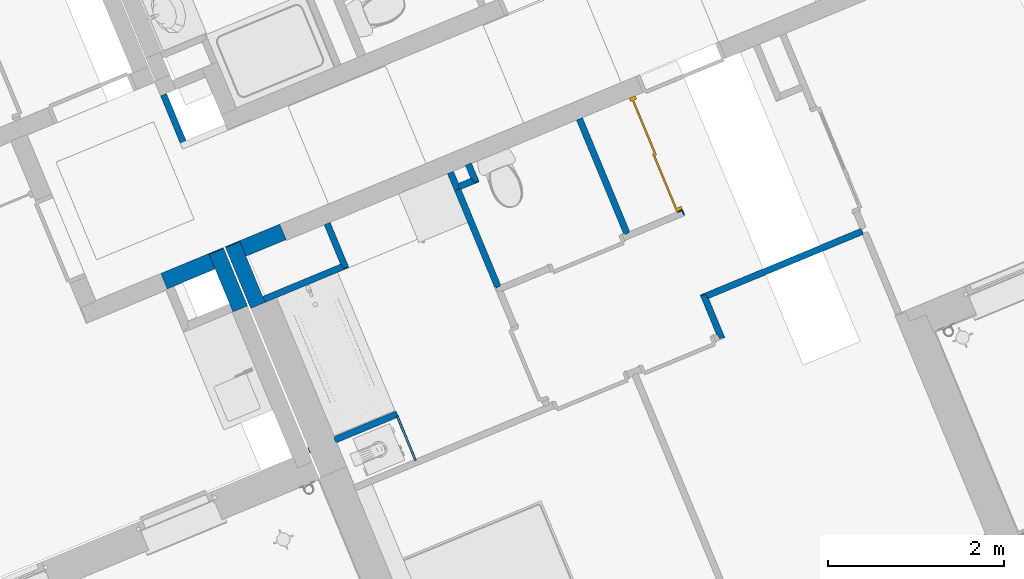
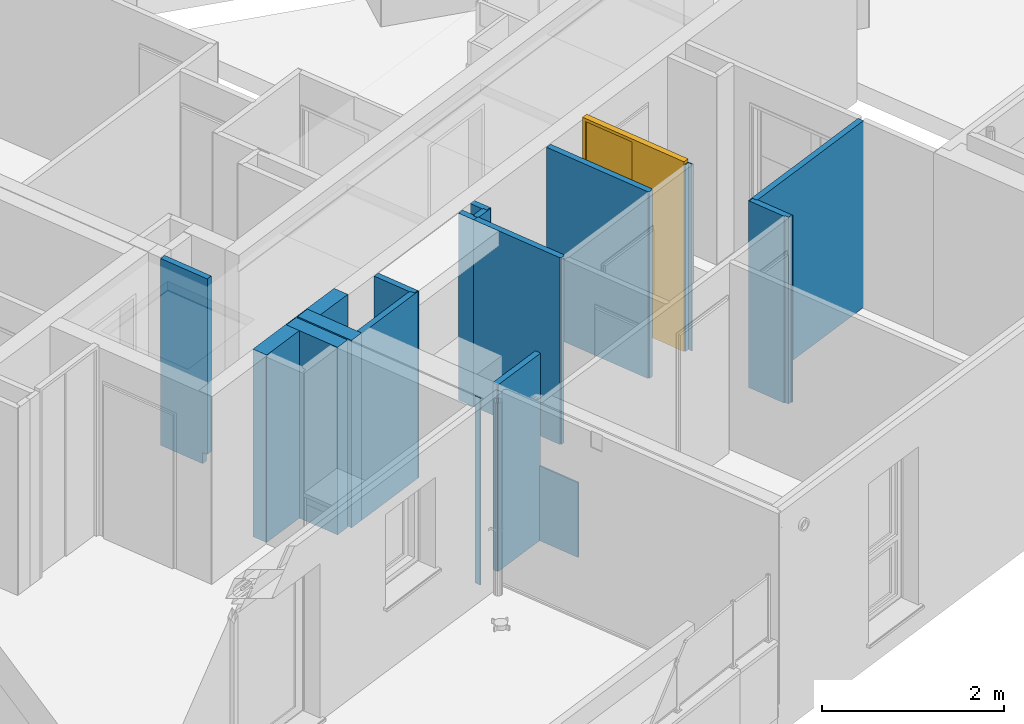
# One storey, part 38 of 119: 17 walls, 1 door, 1 opening.
"""IFC2X3 building model written with IfcOpenShell, lengths in metres."""

import ifcopenshell
import ifcopenshell.guid

model = None  # the IFC model being written
_history = None  # IfcOwnerHistory: only IFC2X3 demands one
_inside = {}  # id of a spatial element -> (the spatial element, [elements in it])
_under = {}  # id of a project, library or spatial element -> (it, [spatial elements below it])
_declared = {}  # id of a project -> (the project, [libraries it declares])
_typed = {}  # id of a type object -> (the type object, [elements of that type])
_made_of = {}  # id of a material, layer set ... -> (it, [elements and type objects made of it])


def new_model(schema):
    """Start an empty IFC model of exactly this schema.

    Asked for "IFC4X3", IfcOpenShell would pick the latest addendum, in which some entities
    have other attributes; the version numbers below select the first issue.
    IFC2X3 requires an IfcOwnerHistory on every rooted entity: one is made here for all.
    """
    global model, _history
    if schema == "IFC4X3":
        model = ifcopenshell.file(schema_version=(4, 3, 0, 0))
    else:
        model = ifcopenshell.file(schema=schema)
    _inside.clear()
    _under.clear()
    _declared.clear()
    _typed.clear()
    _made_of.clear()
    _history = None
    if model.schema == "IFC2X3":
        org = make("IfcOrganization", Name="unknown")
        user = make(
            "IfcPersonAndOrganization",
            ThePerson=make("IfcPerson", FamilyName="unknown"),
            TheOrganization=org,
        )
        app = make(
            "IfcApplication",
            ApplicationDeveloper=org,
            Version="unknown",
            ApplicationFullName="unknown",
            ApplicationIdentifier="unknown",
        )
        _history = make(
            "IfcOwnerHistory",
            OwningUser=user,
            OwningApplication=app,
            ChangeAction="ADDED",
            CreationDate=0,
        )
    return model


def make(cls, **values):
    """One entity of the class cls with the attributes given. An attribute that is None is left unset."""
    return model.create_entity(
        cls, **{name: value for name, value in values.items() if value is not None}
    )


def entity(cls, *values):
    """Any entity or typed value of the class cls, its attributes in the order of the schema. None: left unset."""
    e = model.create_entity(cls)
    for i, value in enumerate(values):
        if value is not None:
            e[i] = value
    return e


def rooted(cls, **values):
    """An entity with a GlobalId (a new one), such as an element, a storey or a relation."""
    return make(cls, GlobalId=ifcopenshell.guid.new(), OwnerHistory=_history, **values)


def si_unit(unit_type, name, prefix=None):
    """IfcSIUnit, for example si_unit("LENGTHUNIT", "METRE", prefix="MILLI")."""
    return make("IfcSIUnit", UnitType=unit_type, Prefix=prefix, Name=name)


def converted_unit(unit_type, name, factor, base, dimensions=None, offset=None):
    """IfcConversionBasedUnit, such as the inch: factor (a typed value) times the base unit."""
    return make(
        "IfcConversionBasedUnit"
        if offset is None
        else "IfcConversionBasedUnitWithOffset",
        ConversionOffset=offset,
        Dimensions=None
        if dimensions is None
        else entity("IfcDimensionalExponents", *dimensions),
        UnitType=unit_type,
        Name=name,
        ConversionFactor=make(
            "IfcMeasureWithUnit", ValueComponent=factor, UnitComponent=base
        ),
    )


def derived_unit(unit_type, elements):
    """IfcDerivedUnit: a product of units, each with its exponent."""
    return make(
        "IfcDerivedUnit",
        Elements=[
            make("IfcDerivedUnitElement", Unit=unit, Exponent=power)
            for unit, power in elements
        ],
        UnitType=unit_type,
    )


def money_unit(currency):
    """IfcMonetaryUnit."""
    return make("IfcMonetaryUnit", Currency=currency)


def assignment(units):
    """IfcUnitAssignment: the units of a project."""
    return None if units is None else make("IfcUnitAssignment", Units=units)


def point(xyz):
    """IfcCartesianPoint."""
    return None if xyz is None else make("IfcCartesianPoint", Coordinates=xyz)


def direction(xyz):
    """IfcDirection."""
    return None if xyz is None else make("IfcDirection", DirectionRatios=xyz)


def frame(location, z_axis=None, x_axis=None):
    """IfcAxis2Placement3D, a coordinate frame: its origin and axes. An axis left out is left unset."""
    return make(
        "IfcAxis2Placement3D",
        Location=point(location),
        Axis=direction(z_axis),
        RefDirection=direction(x_axis),
    )


def origin_with_axes():
    """The frame at (0, 0, 0) with the z axis (0, 0, 1) and the x axis (1, 0, 0) written out."""
    return frame((0.0, 0.0, 0.0), z_axis=(0.0, 0.0, 1.0), x_axis=(1.0, 0.0, 0.0))


def place(relative_to, where):
    """IfcLocalPlacement: puts the frame where relative to a parent placement (None: the world)."""
    return make(
        "IfcLocalPlacement", PlacementRelTo=relative_to, RelativePlacement=where
    )


def context(
    kind, dimensions, precision=None, world=None, true_north=None, identifier=None
):
    """IfcGeometricRepresentationContext, for example the 3D "Model" context."""
    return make(
        "IfcGeometricRepresentationContext",
        ContextIdentifier=identifier,
        ContextType=kind,
        CoordinateSpaceDimension=dimensions,
        Precision=precision,
        WorldCoordinateSystem=world,
        TrueNorth=true_north,
    )


def subcontext(parent, identifier, kind, view, scale=None):
    """IfcGeometricRepresentationSubContext, for example "Body" below "Model"."""
    return make(
        "IfcGeometricRepresentationSubContext",
        ContextIdentifier=identifier,
        ContextType=kind,
        ParentContext=parent,
        TargetScale=scale,
        TargetView=view,
    )


def project(units=None, contexts=None):
    """IfcProject with its units and contexts."""
    return rooted(
        "IfcProject",
        Name="project",
        RepresentationContexts=contexts,
        UnitsInContext=assignment(units),
    )


def spatial(cls, under=None, at=None, **own):
    """A site, building, storey or space (cls), placed at a placement, below another one or the project."""
    s = rooted(cls, ObjectPlacement=at, **own)
    if under is not None:
        _under.setdefault(under.id(), (under, []))[1].append(s)
    return s


def faces_of(points, faces, orient=None, outer=None):
    """IfcFace entities. A face is a list of loops; a loop is a list of indices into points, from 0.

    orient and outer hold one flag for each loop. By default every Orientation is true, the
    first loop of a face is its IfcFaceOuterBound and the others are IfcFaceBound.
    """
    made = []
    for i, loops in enumerate(faces):
        bounds = []
        for j, loop in enumerate(loops):
            is_outer = j == 0 if outer is None else outer[i][j]
            bounds.append(
                make(
                    "IfcFaceOuterBound" if is_outer else "IfcFaceBound",
                    Bound=make("IfcPolyLoop", Polygon=[points[k] for k in loop]),
                    Orientation=True if orient is None else orient[i][j],
                )
            )
        made.append(make("IfcFace", Bounds=bounds))
    return made


def faceted_brep(points, faces, orient=None, outer=None, voids=None):
    """IfcFacetedBrep: a solid bounded by flat faces; with voids (closed shells), ...WithVoids."""
    shared = [point(p) for p in points]
    hull = make("IfcClosedShell", CfsFaces=faces_of(shared, faces, orient, outer))
    if voids is None:
        return make("IfcFacetedBrep", Outer=hull)
    return make(
        "IfcFacetedBrepWithVoids",
        Outer=hull,
        Voids=[
            make(cls, CfsFaces=faces_of(shared, fs, o, b)) for cls, fs, o, b in voids
        ],
    )


def shape(context_of_items, identifier, shape_type, items):
    """IfcShapeRepresentation: the items that make up one representation, for example the "Body"."""
    return make(
        "IfcShapeRepresentation",
        ContextOfItems=context_of_items,
        RepresentationIdentifier=identifier,
        RepresentationType=shape_type,
        Items=items,
    )


def material(Name=None, Category=None):
    """IfcMaterial."""
    return make("IfcMaterial", Name=Name, Category=Category)


def material_list(materials):
    """IfcMaterialList."""
    return make("IfcMaterialList", Materials=materials)


def made_of(thing, what):
    """Note that an element or type object is made of a material, layer set ...; save() writes the relation."""
    if what is not None:
        _made_of.setdefault(what.id(), (what, []))[1].append(thing)
    return thing


def type_object(cls, material=None, **own):
    """A type object (cls), such as IfcWallType, which elements share."""
    return made_of(rooted(cls, **own), material)


def element(
    cls,
    number,
    at=None,
    inside=None,
    cuts=None,
    type_object=None,
    material=None,
    context=None,
    identifier="Body",
    shape_type=None,
    held_by="IfcProductDefinitionShape",
    body=None,
    shapes=None,
    **own,
):
    """One element of the class cls, such as IfcWall. Its Tag is "e" and its number.

    at: its placement. inside: the storey or other place that contains it. cuts: it is an
    opening in that element (IfcRelVoidsElement). A single representation is given by context,
    identifier, shape_type and body (its items); several are given by shapes. held_by: the class
    of the entity that holds the representations. save() writes the other relations.
    """
    e = rooted(cls, Tag="e%d" % number, ObjectPlacement=at, **own)
    if body is not None:
        shapes = [shape(context, identifier, shape_type, body)]
    if shapes is not None:
        e.Representation = make(held_by, Representations=shapes)
    if inside is not None:
        _inside.setdefault(inside.id(), (inside, []))[1].append(e)
    if cuts is not None:
        rooted(
            "IfcRelVoidsElement", RelatingBuildingElement=cuts, RelatedOpeningElement=e
        )
    if type_object is not None:
        _typed.setdefault(type_object.id(), (type_object, []))[1].append(e)
    return made_of(e, material)


def fill(opening, filler):
    """IfcRelFillsElement: the door or window that sits in an opening."""
    return rooted(
        "IfcRelFillsElement",
        RelatingOpeningElement=opening,
        RelatedBuildingElement=filler,
    )


def aggregate(whole, parts):
    """IfcRelAggregates: a whole, such as a stair, and the parts it consists of."""
    return rooted("IfcRelAggregates", RelatingObject=whole, RelatedObjects=parts)


def save(model, path):
    """Write the relations noted so far, then the file.

    IfcRelAggregates (storeys below a building ...), IfcRelContainedInSpatialStructure (elements
    in a storey), IfcRelDefinesByType, IfcRelAssociatesMaterial and IfcRelDeclares: one each for
    every whole, place, type object, material and project.
    """
    for whole, parts in _under.values():
        aggregate(whole, parts)
    for where, things in _inside.values():
        rooted(
            "IfcRelContainedInSpatialStructure",
            RelatedElements=things,
            RelatingStructure=where,
        )
    for kind, things in _typed.values():
        rooted("IfcRelDefinesByType", RelatedObjects=things, RelatingType=kind)
    for what, things in _made_of.values():
        rooted("IfcRelAssociatesMaterial", RelatedObjects=things, RelatingMaterial=what)
    for by, libraries in _declared.values():
        rooted("IfcRelDeclares", RelatingContext=by, RelatedDefinitions=libraries)
    model.write(path)


model = new_model("IFC2X3")

# Units and contexts
model_context = context("Model", 3, precision=1e-05, world=origin_with_axes(), true_north=direction((0.0, 1.0)))
body_context = subcontext(model_context, "Body", "Model", "MODEL_VIEW")
ifc_project = project(units=[si_unit("LENGTHUNIT", "METRE"), si_unit("AREAUNIT", "SQUARE_METRE"), si_unit("VOLUMEUNIT", "CUBIC_METRE"), converted_unit("PLANEANGLEUNIT", "DEGREE", entity("IfcPlaneAngleMeasure", 0.0174532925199), si_unit("PLANEANGLEUNIT", "RADIAN"), dimensions=[0, 0, 0, 0, 0, 0, 0]), si_unit("SOLIDANGLEUNIT", "STERADIAN"), money_unit("EUR"), converted_unit("TIMEUNIT", "Year", entity("IfcTimeMeasure", 31556926.0), si_unit("TIMEUNIT", "SECOND"), dimensions=[0, 0, 1, 0, 0, 0, 0]), si_unit("MASSUNIT", "GRAM", prefix="KILO"), si_unit("THERMODYNAMICTEMPERATUREUNIT", "DEGREE_CELSIUS"), si_unit("LUMINOUSINTENSITYUNIT", "LUMEN"), si_unit("ENERGYUNIT", "JOULE", prefix="MEGA"), derived_unit("THERMALCONDUCTANCEUNIT", [(si_unit("POWERUNIT", "WATT"), 1), (si_unit("LENGTHUNIT", "METRE"), -1), (si_unit("THERMODYNAMICTEMPERATUREUNIT", "KELVIN"), -1)]), derived_unit("SPECIFICHEATCAPACITYUNIT", [(si_unit("ENERGYUNIT", "JOULE"), 1), (si_unit("MASSUNIT", "GRAM", prefix="KILO"), -1), (si_unit("THERMODYNAMICTEMPERATUREUNIT", "KELVIN"), -1)]), derived_unit("MASSDENSITYUNIT", [(si_unit("MASSUNIT", "GRAM", prefix="KILO"), 1), (si_unit("VOLUMEUNIT", "CUBIC_METRE"), -1)])], contexts=[model_context])

# Site, building, storey
site_placement = place(None, origin_with_axes())
site = spatial("IfcSite", under=ifc_project, at=site_placement, Name="Site", CompositionType="ELEMENT")
building_placement = place(site_placement, origin_with_axes())
building = spatial("IfcBuilding", under=site, at=building_placement, Name="Bâtiment", CompositionType="ELEMENT")
storey_placement = place(building_placement, origin_with_axes())
storey = spatial("IfcBuildingStorey", under=building, at=storey_placement, Name="Rez-de-chaussée", CompositionType="ELEMENT", Elevation=0.0)

# Walls
ifc_material_1 = material(Name="Cloison - Carreaux de plâtre")
wall_type_1 = type_object("IfcWallType", Name="Cloison - Carreaux de plâtre 74", PredefinedType="USERDEFINED")
wall_1_placement = place(storey_placement, frame((-23.1735961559, -20.9432584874, 0.0), z_axis=(0.0, 0.0, 1.0), x_axis=(-0.383112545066, 0.923701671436, 0.0)))
element("IfcWall", 1, at=wall_1_placement, inside=storey, type_object=wall_type_1, material=ifc_material_1, Name="Carreaux de plâtre 8cm", ObjectType="PARTITIONING", context=body_context, shape_type="Brep", body=[
    faceted_brep([(0.0, -0.074, 2.5), (0.0, 0.0, 2.5), (0.0, 0.0, 0.15), (0.0, -0.074, 0.15), (0.644635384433, -0.074, 2.5), (0.644635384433, 0.0, 2.5), (0.644635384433, 0.0, 0.0), (0.064, 0.0, 0.0), (0.064, 0.0, 0.15), (0.064, -0.074, 0.15), (0.064, -0.074, 0.0), (0.644635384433, -0.074, 0.0)], [[[0, 1, 2, 3]], [[0, 4, 5, 1]], [[6, 7, 8, 2, 1, 5]], [[2, 8, 9, 3]], [[0, 3, 9, 10, 11, 4]], [[4, 11, 6, 5]], [[6, 11, 10, 7]], [[8, 7, 10, 9]]]),
])
ifc_material_2 = material(Name="Finition int - Plaque de plâtre")
ifc_material_3 = material(Name="Isolation - Laine de roche")
ifc_material_list_1 = material_list([ifc_material_2, ifc_material_3, ifc_material_2])
wall_type_2 = type_object("IfcWallType", Name="3 - Cloison 72mm Placostil 74", PredefinedType="USERDEFINED")
wall_2_placement = place(storey_placement, frame((-20.0113311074, -21.3974057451, 0.0), z_axis=(0.0, 0.0, 1.0), x_axis=(0.383112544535, -0.923701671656, 0.0)))
element("IfcWall", 2, at=wall_2_placement, inside=storey, type_object=wall_type_2, material=ifc_material_list_1, Name="Cloison Placostil 72/48", ObjectType="PARTITIONING", context=body_context, shape_type="Brep", body=[
    faceted_brep([(0.0, -0.013, 2.5), (1.18900000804, -0.013, 2.5), (1.18900000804, 0.0, 2.5), (0.0, 0.0, 2.5), (0.0, -0.013, 0.0), (1.18900000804, -0.013, 0.0), (1.18900000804, 0.0, 0.0), (0.0, 0.0, 0.0)], [[[0, 1, 2, 3]], [[4, 5, 1, 0]], [[5, 6, 2, 1]], [[3, 2, 6, 7]], [[4, 0, 3, 7]], [[7, 6, 5, 4]]]),
    faceted_brep([(0.0, -0.061, 2.5), (1.20200000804, -0.060999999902, 2.5), (1.20200000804, -0.013, 2.5), (0.0, -0.013, 2.5), (0.0, -0.061, 0.0), (1.20200000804, -0.060999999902, 0.0), (1.20200000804, -0.013, 0.0), (0.0, -0.013, 0.0)], [[[0, 1, 2, 3]], [[4, 5, 1, 0]], [[5, 6, 2, 1]], [[3, 2, 6, 7]], [[3, 7, 4, 0]], [[7, 6, 5, 4]]]),
    faceted_brep([(0.0, -0.074, 2.5), (1.18900000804, -0.0739999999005, 2.5), (1.18900000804, -0.061, 2.5), (0.0, -0.061, 2.5), (0.0, -0.074, 0.0), (1.18900000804, -0.0739999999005, 0.0), (1.18900000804, -0.061, 0.0), (0.0, -0.061, 0.0)], [[[0, 1, 2, 3]], [[4, 5, 1, 0]], [[5, 6, 2, 1]], [[3, 2, 6, 7]], [[3, 7, 4, 0]], [[7, 6, 5, 4]]]),
])
wall_3_placement = place(storey_placement, frame((-17.0353278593, -23.0286213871, 0.0), z_axis=(0.0, 0.0, 1.0), x_axis=(-0.383112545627, 0.923701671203, 0.0)))
element("IfcWall", 3, at=wall_3_placement, inside=storey, type_object=wall_type_2, material=ifc_material_list_1, Name="Cloison Placostil 72/48", ObjectType="PARTITIONING", context=body_context, shape_type="Brep", body=[
    faceted_brep([(0.483900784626, 0.074, 0.0), (0.483900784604, 0.061, 0.0), (-0.0129999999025, 0.061, 0.0), (-0.0129999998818, 0.074, 0.0), (0.483900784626, 0.074, 2.5), (0.483900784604, 0.061, 2.5), (-0.0129999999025, 0.061, 2.5), (-0.0129999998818, 0.074, 2.5)], [[[0, 1, 2, 3]], [[1, 0, 4, 5]], [[1, 5, 6, 2]], [[7, 3, 2, 6]], [[4, 0, 3, 7]], [[5, 4, 7, 6]]]),
    faceted_brep([(0.470900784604, 0.061, 0.0), (0.470900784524, 0.013, 0.0), (-0.0609999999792, 0.013, 0.0), (-0.0609999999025, 0.061, 0.0), (0.470900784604, 0.061, 2.5), (0.470900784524, 0.013, 2.5), (-0.0609999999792, 0.013, 2.5), (-0.0609999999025, 0.061, 2.5)], [[[0, 1, 2, 3]], [[1, 0, 4, 5]], [[1, 5, 6, 2]], [[7, 3, 2, 6]], [[4, 0, 3, 7]], [[5, 4, 7, 6]]]),
    faceted_brep([(0.422900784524, 0.013, 0.0), (0.422900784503, 0.0, 0.0), (-0.074, 0.0, 0.0), (-0.0739999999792, 0.013, 0.0), (0.422900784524, 0.013, 2.5), (0.422900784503, 0.0, 2.5), (-0.074, 0.0, 2.5), (-0.0739999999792, 0.013, 2.5)], [[[0, 1, 2, 3]], [[1, 0, 4, 5]], [[1, 5, 6, 2]], [[7, 3, 2, 6]], [[4, 0, 3, 7]], [[5, 4, 7, 6]]]),
])
wall_4_placement = place(storey_placement, frame((-17.2207163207, -22.5816414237, 0.0), z_axis=(0.0, 0.0, 1.0), x_axis=(0.923701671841, 0.383112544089, 0.0)))
element("IfcWall", 4, at=wall_4_placement, inside=storey, type_object=wall_type_2, material=ifc_material_list_1, Name="Cloison Placostil 72/48", ObjectType="PARTITIONING", context=body_context, shape_type="Brep", body=[
    faceted_brep([(1.90419488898, -0.013, 2.5), (1.90419488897, 0.0, 2.5), (-0.061, 0.0, 2.5), (-0.0609999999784, -0.013, 2.5), (1.90419488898, -0.013, 0.0), (1.90419488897, 0.0, 0.0), (-0.061, 0.0, 0.0), (-0.0609999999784, -0.013, 0.0)], [[[0, 1, 2, 3]], [[1, 0, 4, 5]], [[1, 5, 6, 2]], [[7, 3, 2, 6]], [[4, 0, 3, 7]], [[5, 4, 7, 6]]]),
    faceted_brep([(-0.0129999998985, -0.061, 2.5), (1.90619488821, -0.061, 2.5), (1.90619488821, -0.013, 2.5), (-0.0129999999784, -0.013, 2.5), (-0.0129999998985, -0.061, 0.0), (1.90619488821, -0.061, 0.0), (1.90619488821, -0.013, 0.0), (-0.0129999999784, -0.013, 0.0)], [[[0, 1, 2, 3]], [[4, 5, 1, 0]], [[2, 1, 5, 6]], [[3, 2, 6, 7]], [[4, 0, 3, 7]], [[7, 6, 5, 4]]]),
    faceted_brep([(1.90419488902, -0.074, 2.5), (1.90419488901, -0.061, 2.5), (1.01508135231e-10, -0.061, 2.5), (1.23137056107e-10, -0.074, 2.5), (1.90419488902, -0.074, 0.0), (1.90419488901, -0.061, 0.0), (1.01508135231e-10, -0.061, 0.0), (1.23137056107e-10, -0.074, 0.0)], [[[0, 1, 2, 3]], [[1, 0, 4, 5]], [[1, 5, 6, 2]], [[7, 3, 2, 6]], [[4, 0, 3, 7]], [[5, 4, 7, 6]]]),
])
wall_5_placement = place(storey_placement, frame((-21.751478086, -24.3459474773, 0.0), z_axis=(0.0, 0.0, 1.0), x_axis=(0.923701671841, 0.383112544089, 0.0)))
element("IfcWall", 5, at=wall_5_placement, inside=storey, type_object=wall_type_2, material=ifc_material_list_1, Name="Cloison Placostil 72/48", ObjectType="PARTITIONING", context=body_context, shape_type="Brep", body=[
    faceted_brep([(1.08999999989, -0.013, 0.0), (1.08999999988, -0.0130000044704, 2.5), (0.329999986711, -0.0130000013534, 2.5), (0.329999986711, -0.013, 0.0), (1.08999999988, 0.0, 0.0), (1.08999999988, 4.47035120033e-09, 1.0), (1.08999999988, 4.47035120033e-09, 2.5), (0.329999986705, 1.3534080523e-09, 2.5), (0.329999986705, 0.0, 0.0)], [[[0, 1, 2, 3]], [[4, 5, 6, 1, 0]], [[2, 1, 6, 7]], [[8, 3, 2, 7]], [[8, 4, 0, 3]], [[7, 6, 5, 4, 8]]]),
    faceted_brep([(0.0099999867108, -0.013, 0.0), (0.00999998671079, -0.013000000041, 2.5), (0.0, -0.013, 2.5), (0.0, -0.013, 0.0), (0.00999998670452, 0.0, 0.0), (0.00999998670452, 0.0, 2.5), (0.0, 0.0, 2.5), (0.0, 0.0, 0.0)], [[[0, 1, 2, 3]], [[1, 0, 4, 5]], [[1, 5, 6, 2]], [[7, 3, 2, 6]], [[4, 0, 3, 7]], [[5, 4, 7, 6]]]),
    faceted_brep([(1.08999999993, -0.061, 0.0), (1.08999999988, -0.0609999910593, 2.5), (0.319999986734, -0.0609999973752, 2.5), (0.319999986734, -0.061, 0.0), (1.08999999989, -0.013, 0.0), (1.08999999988, -0.0130000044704, 2.5), (0.319999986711, -0.0130000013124, 2.5), (0.319999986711, -0.013, 0.0)], [[[0, 1, 2, 3]], [[4, 5, 1, 0]], [[2, 1, 5, 6]], [[7, 3, 2, 6]], [[7, 4, 0, 3]], [[6, 5, 4, 7]]]),
    faceted_brep([(0.00999998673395, -0.061, 0.0), (0.00999998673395, -0.060999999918, 2.5), (0.0, -0.061, 2.5), (0.0, -0.061, 0.0), (0.0099999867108, -0.013, 0.0), (0.00999998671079, -0.013000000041, 2.5), (0.0, -0.013, 2.5), (0.0, -0.013, 0.0)], [[[0, 1, 2, 3]], [[1, 0, 4, 5]], [[1, 5, 6, 2]], [[7, 3, 2, 6]], [[4, 0, 3, 7]], [[5, 4, 7, 6]]]),
    faceted_brep([(0.32999998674, -0.074, 0.0), (1.06999999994, -0.074, 0.0), (1.06999999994, -0.074, 1.0), (1.08999999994, -0.074, 1.0), (1.08999999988, -0.074, 2.5), (0.32999998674, -0.074, 2.5), (0.329999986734, -0.061, 0.0), (1.06999999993, -0.061, 0.0), (1.06999999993, -0.0609999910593, 1.0), (1.08999999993, -0.0609999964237, 1.0), (1.08999999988, -0.0609999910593, 2.5), (0.329999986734, -0.0609999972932, 2.5)], [[[0, 1, 2, 3, 4, 5]], [[6, 7, 1, 0]], [[8, 2, 1, 7]], [[8, 9, 3, 2]], [[4, 3, 9, 10]], [[11, 5, 4, 10]], [[6, 0, 5, 11]], [[9, 8, 7, 6, 11, 10]]]),
    faceted_brep([(0.00999998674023, -0.074, 0.0), (0.00999998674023, -0.074, 2.5), (0.0, -0.074, 2.5), (0.0, -0.074, 0.0), (0.00999998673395, -0.060999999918, 2.5), (0.00999998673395, -0.061, 0.0), (0.0, -0.061, 2.5), (0.0, -0.061, 0.0)], [[[0, 1, 2, 3]], [[4, 1, 0, 5]], [[1, 4, 6, 2]], [[7, 3, 2, 6]], [[5, 0, 3, 7]], [[4, 5, 7, 6]]]),
])

# Wall, opening, door
ifc_material_list_2 = material_list([ifc_material_3, ifc_material_2])
wall_6_placement = place(storey_placement, frame((-17.4611393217, -21.707018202, 0.0), z_axis=(0.0, 0.0, 1.0), x_axis=(-0.383112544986, 0.923701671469, 0.0)))
wall_6 = element("IfcWall", 6, at=wall_6_placement, inside=storey, type_object=wall_type_2, material=ifc_material_list_2, Name="Cloison Placostil 72/48", ObjectType="PARTITIONING", context=body_context, shape_type="Brep", body=[
    faceted_brep([(0.0740000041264, 0.013, 0.0), (0.0740000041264, 0.013, 2.5), (0.0610000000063, 0.013, 2.5), (0.0610000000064, 0.013, 0.0), (0.0740000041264, 0.061, 2.5), (0.0740000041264, 0.061, 0.0), (0.0610000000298, 0.061, 2.5), (0.0610000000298, 0.061, 0.0)], [[[0, 1, 2, 3]], [[4, 1, 0, 5]], [[1, 4, 6, 2]], [[7, 3, 2, 6]], [[5, 0, 3, 7]], [[4, 5, 7, 6]]]),
    faceted_brep([(0.0740000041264, 0.0, 0.0), (0.0740000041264, 0.0, 2.5), (0.013, 0.0, 2.5), (0.013, 0.0, 0.0), (0.0740000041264, 0.013, 2.5), (0.0740000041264, 0.013, 0.0), (0.0130000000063, 0.013, 2.5), (0.0130000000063, 0.013, 0.0)], [[[0, 1, 2, 3]], [[4, 1, 0, 5]], [[1, 4, 6, 2]], [[7, 3, 2, 6]], [[5, 0, 3, 7]], [[4, 5, 7, 6]]]),
])
opening_placement = place(wall_6_placement, frame((0.774000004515, 0.0, 0.0), z_axis=(0.0, 0.0, 1.0), x_axis=(1.0, 0.0, 0.0)))
opening = element("IfcOpeningElement", 7, at=opening_placement, cuts=wall_6, Name="Por-002", context=body_context, shape_type="Brep", body=[
    faceted_brep([(-0.700000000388, 0.074, 0.0), (0.700000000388, 0.074, 0.0), (0.700000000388, -0.074, 0.0), (-0.700000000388, -0.074, 0.0), (-0.700000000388, 0.074, 2.54), (0.700000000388, 0.074, 2.54), (0.700000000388, -0.074, 2.54), (-0.700000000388, -0.074, 2.54)], [[[0, 1, 2, 3]], [[0, 4, 5, 1]], [[1, 5, 6, 2]], [[3, 2, 6, 7]], [[4, 0, 3, 7]], [[5, 4, 7, 6]]]),
])
door_style = type_object("IfcDoorStyle", Name="Porte int générique 2019", ConstructionType="NOTDEFINED", OperationType="USERDEFINED", ParameterTakesPrecedence=False, Sizeable=False)
door_placement = place(opening_placement, frame((-0.660000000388, 0.0, 0.0), z_axis=(0.0, 0.0, 1.0), x_axis=(1.0, 0.0, 0.0)))
door = element("IfcDoor", 8, at=door_placement, inside=storey, type_object=door_style, Name="Por-002", ObjectType="DOOR", OverallHeight=2.5, OverallWidth=1.32, context=body_context, shape_type="Brep", body=[
    faceted_brep([(-0.04, 0.074, 0.0), (-0.04, 0.074, 2.54), (1.36000000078, 0.074, 2.54), (1.36000000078, 0.074, 0.0), (1.32000000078, 0.074, 0.0), (1.32000000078, 0.074, 2.5), (0.0, 0.074, 2.5), (0.0, 0.074, 0.0), (-0.04, 0.0, 0.0), (-0.04, 0.0, 2.54), (1.36000000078, 0.0, 2.54), (1.36000000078, 0.0, 0.0), (1.32000000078, 0.0, 0.0), (1.32000000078, 0.0, 2.5), (0.0, 0.0, 2.5), (0.0, 0.0, 0.0)], [[[0, 1, 2, 3, 4, 5, 6, 7]], [[8, 9, 1, 0]], [[9, 10, 2, 1]], [[10, 11, 3, 2]], [[3, 11, 12, 4]], [[5, 4, 12, 13]], [[6, 5, 13, 14]], [[7, 6, 14, 15]], [[0, 7, 15, 8]], [[15, 14, 13, 12, 11, 10, 9, 8]]]),
    faceted_brep([(0.0, 0.074, 0.0), (0.675000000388, 0.074, 0.0), (0.675000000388, 0.054, 0.0), (0.0, 0.054, 0.0), (0.0, 0.074, 2.5), (0.675000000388, 0.074, 2.5), (0.675000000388, 0.054, 2.5), (0.0, 0.054, 2.5)], [[[0, 1, 2, 3]], [[0, 4, 5, 1]], [[1, 5, 6, 2]], [[3, 2, 6, 7]], [[4, 0, 3, 7]], [[5, 4, 7, 6]]]),
    faceted_brep([(0.645000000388, 0.054, 0.0), (1.32000000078, 0.054, 0.0), (1.32000000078, 0.034, 0.0), (0.645000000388, 0.034, 0.0), (0.645000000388, 0.054, 2.5), (1.32000000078, 0.054, 2.5), (1.32000000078, 0.034, 2.5), (0.645000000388, 0.034, 2.5)], [[[0, 1, 2, 3]], [[0, 4, 5, 1]], [[1, 5, 6, 2]], [[3, 2, 6, 7]], [[4, 0, 3, 7]], [[5, 4, 7, 6]]]),
])
fill(opening, door)

# Walls
wall_7_placement = place(storey_placement, frame((-18.0615454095, -21.9560413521, 0.0), z_axis=(0.0, 0.0, 1.0), x_axis=(-0.383112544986, 0.923701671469, 0.0)))
element("IfcWall", 9, at=wall_7_placement, inside=storey, type_object=wall_type_2, material=ifc_material_list_1, Name="Cloison Placostil 72/48", ObjectType="PARTITIONING", context=body_context, shape_type="Brep", body=[
    faceted_brep([(0.0739999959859, 0.074, 0.0), (1.47400000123, 0.074, 0.0), (1.47400000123, 0.061, 0.0), (0.0739999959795, 0.061, 0.0), (0.0739999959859, 0.074, 2.5), (1.47400000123, 0.074, 2.5), (1.47400000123, 0.061, 2.5), (0.0739999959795, 0.061, 2.5)], [[[0, 1, 2, 3]], [[4, 5, 1, 0]], [[2, 1, 5, 6]], [[3, 2, 6, 7]], [[4, 0, 3, 7]], [[7, 6, 5, 4]]]),
    faceted_brep([(0.0609999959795, 0.061, 0.0), (1.47400000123, 0.061, 0.0), (1.47400000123, 0.013, 0.0), (0.0609999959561, 0.013, 0.0), (0.0609999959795, 0.061, 2.5), (1.47400000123, 0.061, 2.5), (1.47400000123, 0.013, 2.5), (0.0609999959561, 0.013, 2.5)], [[[0, 1, 2, 3]], [[4, 5, 1, 0]], [[2, 1, 5, 6]], [[3, 2, 6, 7]], [[4, 0, 3, 7]], [[7, 6, 5, 4]]]),
    faceted_brep([(0.0739999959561, 0.013, 0.0), (1.47400000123, 0.013, 0.0), (1.47400000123, 0.0, 0.0), (0.0739999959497, 0.0, 0.0), (0.0739999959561, 0.013, 2.5), (1.47400000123, 0.013, 2.5), (1.47400000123, 0.0, 2.5), (0.0739999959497, 0.0, 2.5)], [[[0, 1, 2, 3]], [[4, 5, 1, 0]], [[2, 1, 5, 6]], [[3, 2, 6, 7]], [[4, 0, 3, 7]], [[7, 6, 5, 4]]]),
])
wall_type_3 = type_object("IfcWallType", Name="3 - Cloison Gaine Technique 72mm 74", PredefinedType="USERDEFINED")
wall_8_placement = place(storey_placement, frame((-19.9580172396, -20.9411705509, 0.0), z_axis=(0.0, 0.0, 1.0), x_axis=(0.383112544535, -0.923701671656, 0.0)))
element("IfcWall", 10, at=wall_8_placement, inside=storey, type_object=wall_type_3, material=ifc_material_list_1, Name="Cloison Placostil 72/48", ObjectType="PARTITIONING", context=body_context, shape_type="Brep", body=[
    faceted_brep([(0.414, -0.013, 2.5), (0.414, 0.0, 2.5), (0.180000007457, 0.0, 2.5), (0.180000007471, -0.013, 2.5), (0.414, -0.013, 0.0), (0.414, 0.0, 0.0), (0.180000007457, 0.0, 0.0), (0.180000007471, -0.013, 0.0)], [[[0, 1, 2, 3]], [[1, 0, 4, 5]], [[1, 5, 6, 2]], [[7, 3, 2, 6]], [[4, 0, 3, 7]], [[5, 4, 7, 6]]]),
    faceted_brep([(0.401, -0.061, 2.5), (0.401, -0.013, 2.5), (0.180000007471, -0.013, 2.5), (0.180000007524, -0.061, 2.5), (0.401, -0.061, 0.0), (0.401, -0.013, 0.0), (0.180000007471, -0.013, 0.0), (0.180000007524, -0.061, 0.0)], [[[0, 1, 2, 3]], [[1, 0, 4, 5]], [[1, 5, 6, 2]], [[7, 3, 2, 6]], [[4, 0, 3, 7]], [[5, 4, 7, 6]]]),
    faceted_brep([(0.353, -0.074, 2.5), (0.353, -0.061, 2.5), (0.180000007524, -0.061, 2.5), (0.180000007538, -0.074, 2.5), (0.353, -0.074, 0.0), (0.353, -0.061, 0.0), (0.180000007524, -0.061, 0.0), (0.180000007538, -0.074, 0.0)], [[[0, 1, 2, 3]], [[1, 0, 4, 5]], [[1, 5, 6, 2]], [[7, 3, 2, 6]], [[4, 0, 3, 7]], [[5, 4, 7, 6]]]),
])
wall_9_placement = place(storey_placement, frame((-19.7994086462, -21.323583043, 0.0), z_axis=(0.0, 0.0, 1.0), x_axis=(-0.923701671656, -0.383112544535, 0.0)))
element("IfcWall", 11, at=wall_9_placement, inside=storey, type_object=wall_type_3, material=ifc_material_list_1, Name="Cloison Placostil 72/48", ObjectType="PARTITIONING", context=body_context, shape_type="Brep", body=[
    faceted_brep([(0.224035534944, -0.013, 2.5), (0.224035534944, 0.0, 2.5), (0.013, 0.0, 2.5), (0.013, -0.013, 2.5), (0.224035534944, -0.013, 0.0), (0.224035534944, 0.0, 0.0), (0.013, 0.0, 0.0), (0.013, -0.013, 0.0)], [[[0, 1, 2, 3]], [[1, 0, 4, 5]], [[1, 5, 6, 2]], [[7, 3, 2, 6]], [[4, 0, 3, 7]], [[5, 4, 7, 6]]]),
    faceted_brep([(0.237035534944, -0.061, 2.5), (0.237035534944, -0.013, 2.5), (0.061, -0.013, 2.5), (0.061, -0.061, 2.5), (0.237035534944, -0.061, 0.0), (0.237035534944, -0.013, 0.0), (0.061, -0.013, 0.0), (0.061, -0.061, 0.0)], [[[0, 1, 2, 3]], [[1, 0, 4, 5]], [[1, 5, 6, 2]], [[7, 3, 2, 6]], [[4, 0, 3, 7]], [[5, 4, 7, 6]]]),
    faceted_brep([(0.224035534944, -0.074, 2.5), (0.224035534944, -0.061, 2.5), (0.074, -0.061, 2.5), (0.074, -0.074, 2.5), (0.224035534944, -0.074, 0.0), (0.224035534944, -0.061, 0.0), (0.074, -0.061, 0.0), (0.074, -0.074, 0.0)], [[[0, 1, 2, 3]], [[1, 0, 4, 5]], [[1, 5, 6, 2]], [[7, 3, 2, 6]], [[4, 0, 3, 7]], [[5, 4, 7, 6]]]),
])
wall_10_placement = place(storey_placement, frame((-22.2310972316, -22.6936262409, 0.0), z_axis=(0.0, 0.0, 1.0), x_axis=(0.923701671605, 0.383112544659, 0.0)))
element("IfcWall", 12, at=wall_10_placement, inside=storey, type_object=wall_type_3, material=ifc_material_list_1, Name="Cloison Placostil 72/48", ObjectType="PARTITIONING", context=body_context, shape_type="Brep", body=[
    faceted_brep([(0.956000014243, 0.074, 0.0), (0.956000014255, 0.061, 0.0), (0.0, 0.061, 0.0), (0.0, 0.074, 0.0), (0.956000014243, 0.074, 2.5), (0.956000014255, 0.061, 2.5), (0.0, 0.061, 2.5), (0.0, 0.074, 2.5)], [[[0, 1, 2, 3]], [[1, 0, 4, 5]], [[1, 5, 6, 2]], [[7, 3, 2, 6]], [[4, 0, 3, 7]], [[5, 4, 7, 6]]]),
    faceted_brep([(0.969000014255, 0.061, 0.0), (0.969000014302, 0.013, 0.0), (0.0, 0.013, 0.0), (0.0, 0.061, 0.0), (0.969000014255, 0.061, 2.5), (0.969000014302, 0.013, 2.5), (0.0, 0.013, 2.5), (0.0, 0.061, 2.5)], [[[0, 1, 2, 3]], [[1, 0, 4, 5]], [[1, 5, 6, 2]], [[7, 3, 2, 6]], [[4, 0, 3, 7]], [[5, 4, 7, 6]]]),
    faceted_brep([(1.0170000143, 0.013, 0.0), (1.01700001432, 0.0, 0.0), (0.0, 0.0, 0.0), (0.0, 0.013, 0.0), (1.0170000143, 0.013, 2.5), (1.01700001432, 0.0, 2.5), (0.0, 0.0, 2.5), (0.0, 0.013, 2.5)], [[[0, 1, 2, 3]], [[1, 0, 4, 5]], [[1, 5, 6, 2]], [[7, 3, 2, 6]], [[4, 0, 3, 7]], [[5, 4, 7, 6]]]),
])
wall_11_placement = place(storey_placement, frame((-20.0921678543, -21.2025046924, 0.0), z_axis=(0.0, 0.0, 1.0), x_axis=(0.383112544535, -0.923701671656, 0.0)))
element("IfcWall", 13, at=wall_11_placement, inside=storey, type_object=wall_type_3, material=ifc_material_list_1, Name="Cloison Placostil 72/48", ObjectType="PARTITIONING", context=body_context, shape_type="Brep", body=[
    faceted_brep([(0.0, -0.013, 2.5), (0.211, -0.013, 2.5), (0.211, 0.0, 2.5), (0.0, 0.0, 2.5), (0.0, -0.013, 0.0), (0.211, -0.013, 0.0), (0.211, 0.0, 0.0), (0.0, 0.0, 0.0)], [[[0, 1, 2, 3]], [[4, 5, 1, 0]], [[2, 1, 5, 6]], [[3, 2, 6, 7]], [[4, 0, 3, 7]], [[7, 6, 5, 4]]]),
    faceted_brep([(0.0, -0.061, 2.5), (0.211, -0.061, 2.5), (0.211, -0.013, 2.5), (0.0, -0.013, 2.5), (0.0, -0.061, 0.0), (0.211, -0.061, 0.0), (0.211, -0.013, 0.0), (0.0, -0.013, 0.0)], [[[0, 1, 2, 3]], [[4, 5, 1, 0]], [[2, 1, 5, 6]], [[3, 2, 6, 7]], [[4, 0, 3, 7]], [[7, 6, 5, 4]]]),
    faceted_brep([(0.0, -0.074, 2.5), (0.211, -0.074, 2.5), (0.211, -0.061, 2.5), (0.0, -0.061, 2.5), (0.0, -0.074, 0.0), (0.211, -0.074, 0.0), (0.211, -0.061, 0.0), (0.0, -0.061, 0.0)], [[[0, 1, 2, 3]], [[4, 5, 1, 0]], [[2, 1, 5, 6]], [[3, 2, 6, 7]], [[4, 0, 3, 7]], [[7, 6, 5, 4]]]),
])
wall_12_placement = place(storey_placement, frame((-21.2796844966, -22.2990203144, 0.0), z_axis=(0.0, 0.0, 1.0), x_axis=(-0.383112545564, 0.923701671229, 0.0)))
element("IfcWall", 14, at=wall_12_placement, inside=storey, type_object=wall_type_3, material=ifc_material_list_1, Name="Cloison Placostil 72/48", ObjectType="PARTITIONING", context=body_context, shape_type="Brep", body=[
    faceted_brep([(0.0610000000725, 0.074, 0.0), (0.55790079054, 0.074, 0.0), (0.55790079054, 0.061, 0.0), (0.0610000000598, 0.061, 0.0), (0.0610000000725, 0.074, 2.5), (0.55790079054, 0.074, 2.5), (0.55790079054, 0.061, 2.5), (0.0610000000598, 0.061, 2.5)], [[[0, 1, 2, 3]], [[4, 5, 1, 0]], [[2, 1, 5, 6]], [[3, 2, 6, 7]], [[4, 0, 3, 7]], [[7, 6, 5, 4]]]),
    faceted_brep([(0.0130000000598, 0.061, 0.0), (0.55790079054, 0.061, 0.0), (0.55790079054, 0.013, 0.0), (0.0130000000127, 0.013, 0.0), (0.0130000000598, 0.061, 2.5), (0.55790079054, 0.061, 2.5), (0.55790079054, 0.013, 2.5), (0.0130000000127, 0.013, 2.5)], [[[0, 1, 2, 3]], [[4, 5, 1, 0]], [[2, 1, 5, 6]], [[3, 2, 6, 7]], [[4, 0, 3, 7]], [[7, 6, 5, 4]]]),
    faceted_brep([(0.0, 0.013, 0.0), (0.55790079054, 0.013, 0.0), (0.55790079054, 0.0, 0.0), (0.0, 0.0, 0.0), (0.0, 0.013, 2.5), (0.55790079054, 0.013, 2.5), (0.55790079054, 0.0, 2.5), (0.0, 0.0, 2.5)], [[[0, 1, 2, 3]], [[4, 5, 1, 0]], [[2, 1, 5, 6]], [[3, 2, 6, 7]], [[4, 0, 3, 7]], [[7, 6, 5, 4]]]),
])
ifc_material_4 = material(Name="Finition int - Enduit plâtre")
ifc_material_5 = material(Name="Béton")
ifc_material_list_3 = material_list([ifc_material_4, ifc_material_5])
wall_type_4 = type_object("IfcWallType", Name="2 - Murs Béton 18 + Enduit 1 Face 190", PredefinedType="USERDEFINED")
wall_13_placement = place(storey_placement, frame((-22.6838937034, -22.0717492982, 0.0), z_axis=(0.0, 0.0, 1.0), x_axis=(0.923701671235, 0.383112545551, 0.0)))
element("IfcWall", 15, at=wall_13_placement, inside=storey, type_object=wall_type_4, material=ifc_material_list_3, Name="M_Ext-008", ObjectType="SOLIDWALL", context=body_context, shape_type="Brep", body=[
    faceted_brep([(0.672674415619, 0.00800185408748, 0.02), (0.672674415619, 0.01, 0.02), (0.672674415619, 0.01, 2.51), (0.672674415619, 0.0, 2.51), (0.672674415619, 0.0, 0.0), (0.672674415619, 0.00800185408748, 0.0), (0.672674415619, 0.00800185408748, 0.005), (0.0, 0.00859588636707, 0.02), (0.0, 0.01, 0.02), (0.0, 0.01, 2.51), (0.0, 0.0, 2.51), (0.0, 0.0, 0.0), (0.0, 0.00859588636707, 0.0), (0.0, 0.00859588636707, 0.005)], [[[0, 1, 2, 3, 4, 5, 6]], [[1, 0, 7, 8]], [[1, 8, 9, 2]], [[10, 3, 2, 9]], [[3, 10, 11, 4]], [[12, 5, 4, 11]], [[13, 6, 5, 12]], [[0, 6, 13, 7]], [[7, 13, 12, 11, 10, 9, 8]]]),
    faceted_brep([(0.672674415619, 0.0, 2.51), (0.672674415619, -0.18, 2.51), (0.672674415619, -0.18, 0.0), (0.672674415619, 0.0, 0.0), (0.179999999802, -0.18, 2.51), (0.18, 0.0, 2.51), (0.179999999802, -0.18, 0.0), (0.18, 0.0, 0.0)], [[[0, 1, 2, 3]], [[4, 1, 0, 5]], [[1, 4, 6, 2]], [[7, 3, 2, 6]], [[5, 0, 3, 7]], [[4, 5, 7, 6]]]),
])
wall_14_placement = place(storey_placement, frame((-23.4136180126, -22.3744082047, 0.0), z_axis=(0.0, 0.0, 1.0), x_axis=(0.923701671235, 0.383112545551, 0.0)))
element("IfcWall", 16, at=wall_14_placement, inside=storey, type_object=wall_type_4, material=ifc_material_list_3, Name="M_Ext-008", ObjectType="SOLIDWALL", context=body_context, shape_type="Brep", body=[
    faceted_brep([(0.770000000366, 0.00861354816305, 0.02), (0.770000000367, 0.01, 0.02), (0.770000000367, 0.01, 2.51), (0.77000000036, 0.0, 2.51), (0.77000000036, 0.0, 0.0), (0.770000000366, 0.00861354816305, 0.0), (0.770000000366, 0.00861354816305, 0.005), (0.0, 0.00929352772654, 0.02), (0.0, 0.01, 0.02), (0.0, 0.01, 2.51), (0.0, 0.0, 2.51), (0.0, 0.0, 0.0), (0.0, 0.00929352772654, 0.0), (0.0, 0.00929352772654, 0.005)], [[[0, 1, 2, 3, 4, 5, 6]], [[1, 0, 7, 8]], [[1, 8, 9, 2]], [[10, 3, 2, 9]], [[3, 10, 11, 4]], [[12, 5, 4, 11]], [[13, 6, 5, 12]], [[0, 6, 13, 7]], [[7, 13, 12, 11, 10, 9, 8]]]),
    faceted_brep([(0.59000000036, 0.0, 2.51), (0.590000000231, -0.18, 2.51), (0.590000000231, -0.18, 0.0), (0.59000000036, 0.0, 0.0), (0.0, -0.18, 2.51), (0.0, 0.0, 2.51), (0.0, -0.18, 0.0), (0.0, 0.0, 0.0)], [[[0, 1, 2, 3]], [[4, 1, 0, 5]], [[1, 4, 6, 2]], [[3, 2, 6, 7]], [[5, 0, 3, 7]], [[4, 5, 7, 6]]]),
])
wall_type_5 = type_object("IfcWallType", Name="Béton 180", PredefinedType="USERDEFINED")
wall_15_placement = place(storey_placement, frame((-22.6838937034, -22.0717492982, 0.0), z_axis=(0.0, 0.0, 1.0), x_axis=(0.383112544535, -0.923701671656, 0.0)))
element("IfcWall", 17, at=wall_15_placement, inside=storey, type_object=wall_type_5, material=ifc_material_5, Name="M_Ext-008", ObjectType="SOLIDWALL", context=body_context, shape_type="Brep", body=[
    faceted_brep([(-1.9789681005e-10, 0.18, 0.0), (-1.9789681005e-10, 0.18, 2.51), (0.747900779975, 0.18, 2.51), (0.747900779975, 0.18, 0.0), (0.0, 0.0, 0.0), (0.0, 0.0, 2.51), (0.747900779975, 0.0, 2.51), (0.747900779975, 0.0, 0.0)], [[[0, 1, 2, 3]], [[4, 5, 1, 0]], [[5, 6, 2, 1]], [[3, 2, 6, 7]], [[4, 0, 3, 7]], [[7, 6, 5, 4]]]),
])
wall_16_placement = place(storey_placement, frame((-22.7023677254, -22.0794115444, 0.0), z_axis=(0.0, 0.0, 1.0), x_axis=(0.383112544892, -0.923701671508, 0.0)))
element("IfcWall", 18, at=wall_16_placement, inside=storey, type_object=wall_type_5, material=ifc_material_5, Name="M_Ext-008", ObjectType="SOLIDWALL", context=body_context, shape_type="Brep", body=[
    faceted_brep([(0.0, 0.0, 0.0), (0.0, 0.0, 2.51), (0.707449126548, 0.0, 2.51), (0.707449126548, 0.0, 0.0), (1.28386190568e-10, -0.18, 0.0), (1.2837908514e-10, -0.18, 2.51), (0.707449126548, -0.18, 2.51), (0.707449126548, -0.18, 0.0)], [[[0, 1, 2, 3]], [[4, 5, 1, 0]], [[5, 6, 2, 1]], [[3, 2, 6, 7]], [[4, 0, 3, 7]], [[7, 6, 5, 4]]]),
])
ifc_material_6 = material(Name="Bois - Mélaminé blanc")
wall_type_6 = type_object("IfcWallType", Name="Bois - Mélaminé blanc 20", PredefinedType="USERDEFINED")
wall_17_placement = place(storey_placement, frame((-20.7446432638, -23.9283548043, 0.0), z_axis=(0.0, 0.0, 1.0), x_axis=(0.383112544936, -0.92370167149, 0.0)))
element("IfcWall", 19, at=wall_17_placement, inside=storey, type_object=wall_type_6, material=ifc_material_6, Name="Panneaux 20mm mélaminé blanc", ObjectType="PARTITIONING", context=body_context, shape_type="Brep", body=[
    faceted_brep([(0.0609999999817, -0.02, 1.0), (0.602999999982, -0.02, 1.0), (0.602999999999, 0.0, 1.0), (0.061, 0.0, 1.0), (0.0609999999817, -0.02, 0.0), (0.602999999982, -0.02, 0.0), (0.602999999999, 0.0, 0.0), (0.061, 0.0, 0.0)], [[[0, 1, 2, 3]], [[4, 5, 1, 0]], [[6, 2, 1, 5]], [[3, 2, 6, 7]], [[7, 4, 0, 3]], [[7, 6, 5, 4]]]),
])

save(model, "model.ifc")
